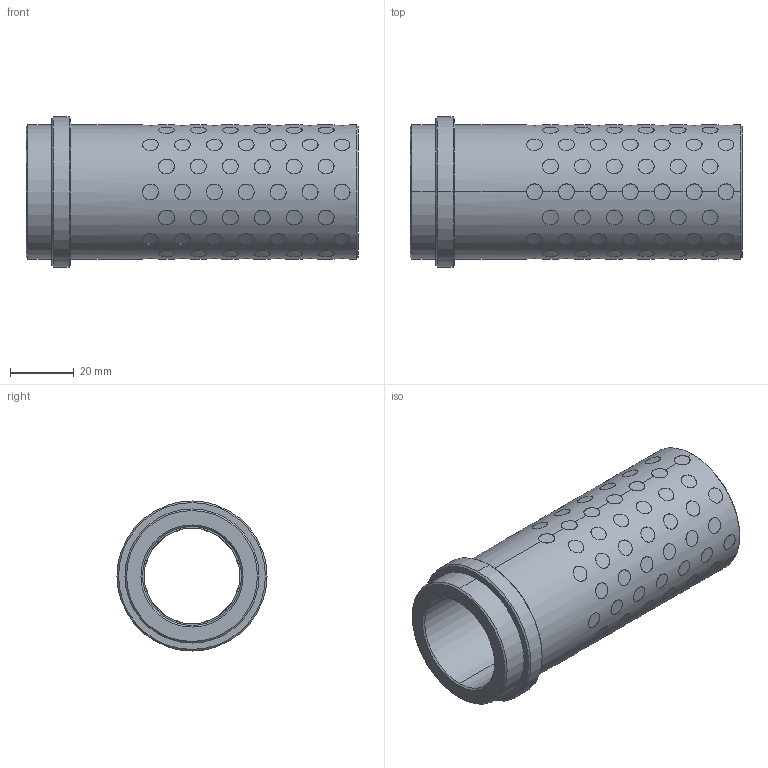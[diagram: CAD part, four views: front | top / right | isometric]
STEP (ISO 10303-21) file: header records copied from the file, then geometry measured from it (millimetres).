
FILE_DESCRIPTION((''),'2;1');
FILE_NAME('G31230096','2017-12-30T',('MANU'),(''),'PRO/ENGINEER BY PARAMETRIC TECHNOLOGY CORPORATION, 2012130','PRO/ENGINEER BY PARAMETRIC TECHNOLOGY CORPORATION, 2012130','');
FILE_SCHEMA(('CONFIG_CONTROL_DESIGN'));
Length unit declared in the file: millimetre
Products named in the file (1): G31230096
Bounding box: 104 x 47 x 47 mm (x, y, z)
Volume: 70702.1 mm3; surface area: 45081.6 mm2
Topology: 105 solids, 105 shells, 651 faces, 1386 edges, 920 vertices
Faces by surface type: cylinder 634, cone 12, plane 5
Entity records: 32688 total; most frequent: CARTESIAN_POINT 20015, ORIENTED_EDGE 2772, DIRECTION 1832, EDGE_CURVE 1386, VERTEX_POINT 920, B_SPLINE_CURVE_WITH_KNOTS 888, EDGE_LOOP 836, AXIS2_PLACEMENT_3D 683
